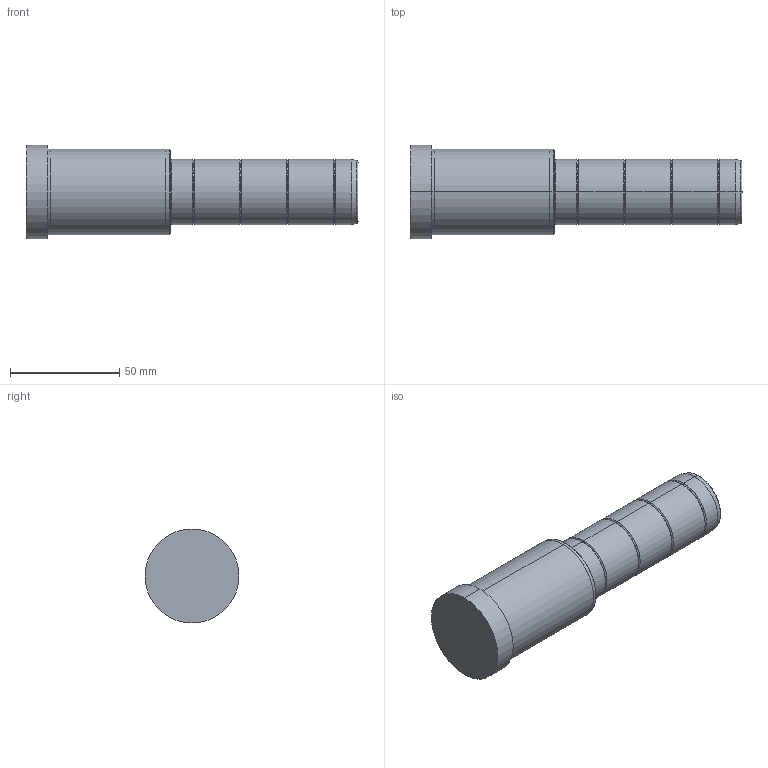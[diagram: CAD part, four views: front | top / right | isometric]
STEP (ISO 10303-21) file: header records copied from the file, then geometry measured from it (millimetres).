
FILE_DESCRIPTION( ( 'STEP AP203' ), '1' );
FILE_NAME( 'C:/Projects/D02 - 30x66x86.step', '2002-12-31T22:47:23', ( ' ' ), ( ' ' ), 'XStep 1.0', ' ', ' ' );
FILE_SCHEMA( ( 'CONFIG_CONTROL_DESIGN' ) );
Length unit declared in the file: metre
Products named in the file (1): 1
Bounding box: 152 x 43 x 43 mm (x, y, z)
Volume: 141996.2 mm3; surface area: 19281.9 mm2
Topology: 1 solids, 1 shells, 48 faces, 94 edges, 52 vertices
Faces by surface type: bspline 26, revolution 22
Entity records: 1523 total; most frequent: CARTESIAN_POINT 617, ORIENTED_EDGE 188, DIRECTION 150, EDGE_CURVE 94, AXIS2_PLACEMENT_3D 53, EDGE_LOOP 52, VERTEX_POINT 52, CIRCLE 52
